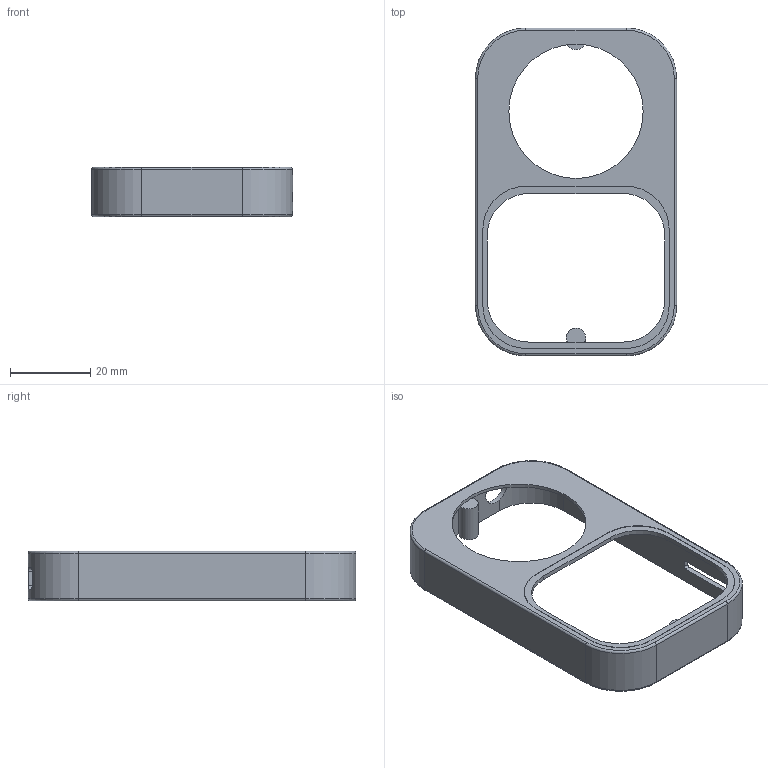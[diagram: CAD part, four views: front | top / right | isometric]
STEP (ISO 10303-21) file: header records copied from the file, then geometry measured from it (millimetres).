
FILE_DESCRIPTION(('FreeCAD Model'),'2;1');
FILE_NAME('Open CASCADE Shape Model','2026-09-22T00:47:39',('FreeCAD'),( 'FreeCAD'),'Open CASCADE STEP processor 7.8','FreeCAD','Unknown');
FILE_SCHEMA(('AUTOMOTIVE_DESIGN { 1 0 10303 214 1 1 1 1 }'));
Length unit declared in the file: millimetre
Products named in the file (1): Open CASCADE STEP translator 7.8 1
Bounding box: 50 x 81.5 x 12.3 mm (x, y, z)
Volume: 5079 mm3; surface area: 9021.8 mm2
Topology: 1 solids, 1 shells, 100 faces, 256 edges, 166 vertices
Faces by surface type: cylinder 47, plane 45, torus 8
Full cylindrical faces by diameter (mm): 1.3 x6, 4 x4, 4.8 x1, 7.2 x1, 33.4 x1, 34.9 x1
Entity records: 3216 total; most frequent: CARTESIAN_POINT 679, DIRECTION 552, ORIENTED_EDGE 512, EDGE_CURVE 256, AXIS2_PLACEMENT_3D 207, VERTEX_POINT 166, LINE 138, VECTOR 138
